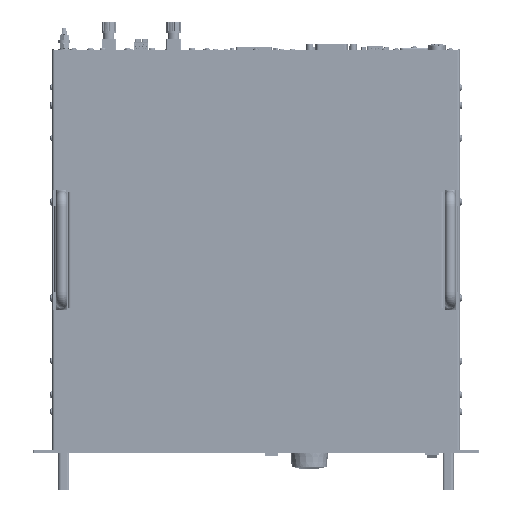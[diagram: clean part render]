
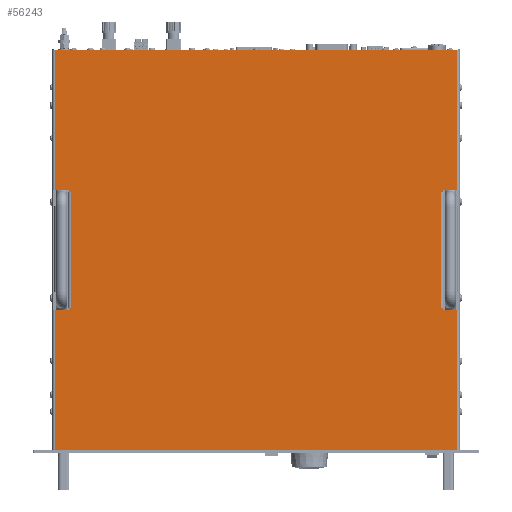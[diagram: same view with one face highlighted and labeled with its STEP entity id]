
A CAD part, top view. The second image highlights one B-rep face of the part: STEP entity #56243.
In plain terms, the highlighted planar face has unit normal (0, 0, 1).
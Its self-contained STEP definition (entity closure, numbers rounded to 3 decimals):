
#56243=ADVANCED_FACE('',(#115774),#115775,.F.);
#115774=FACE_OUTER_BOUND('',#212167,.T.);
#115775=PLANE('',#212168);
#212167=EDGE_LOOP('',(#369351,#369352,#369353,#369354,#369355,#369356,#369357,#369358,#369359,#369360,#369361,#369362,#369363,#369364,#369365,#369366,#369367,#369368,#369369,#369370));
#212168=AXIS2_PLACEMENT_3D('',#369371,#369372,#369373);
#369351=ORIENTED_EDGE('',*,*,#453408,.T.);
#369352=ORIENTED_EDGE('',*,*,#453428,.F.);
#369353=ORIENTED_EDGE('',*,*,#453429,.F.);
#369354=ORIENTED_EDGE('',*,*,#453072,.F.);
#369355=ORIENTED_EDGE('',*,*,#453394,.F.);
#369356=ORIENTED_EDGE('',*,*,#453057,.F.);
#369357=ORIENTED_EDGE('',*,*,#453383,.F.);
#369358=ORIENTED_EDGE('',*,*,#453430,.F.);
#369359=ORIENTED_EDGE('',*,*,#453426,.T.);
#369360=ORIENTED_EDGE('',*,*,#453421,.F.);
#369361=ORIENTED_EDGE('',*,*,#453418,.T.);
#369362=ORIENTED_EDGE('',*,*,#453431,.F.);
#369363=ORIENTED_EDGE('',*,*,#453359,.F.);
#369364=ORIENTED_EDGE('',*,*,#453047,.F.);
#369365=ORIENTED_EDGE('',*,*,#453348,.F.);
#369366=ORIENTED_EDGE('',*,*,#453067,.F.);
#369367=ORIENTED_EDGE('',*,*,#453432,.F.);
#369368=ORIENTED_EDGE('',*,*,#453433,.F.);
#369369=ORIENTED_EDGE('',*,*,#453405,.T.);
#369370=ORIENTED_EDGE('',*,*,#453413,.T.);
#369371=CARTESIAN_POINT('',(239.8,220.125,86.465));
#369372=DIRECTION('',(0.,0.,-1.0));
#369373=DIRECTION('',(1.0,0.,0.));
#453047=EDGE_CURVE('',#545673,#545675,#545676,.T.);
#453057=EDGE_CURVE('',#545691,#545693,#545694,.T.);
#453067=EDGE_CURVE('',#545709,#545711,#545712,.T.);
#453072=EDGE_CURVE('',#545718,#545720,#545721,.T.);
#453348=EDGE_CURVE('',#545711,#545673,#546151,.T.);
#453359=EDGE_CURVE('',#545675,#546166,#546167,.T.);
#453383=EDGE_CURVE('',#546199,#545691,#546201,.T.);
#453394=EDGE_CURVE('',#545693,#545718,#546216,.T.);
#453405=EDGE_CURVE('',#546227,#546230,#546232,.T.);
#453408=EDGE_CURVE('',#546237,#546234,#546238,.T.);
#453413=EDGE_CURVE('',#546230,#546237,#546243,.T.);
#453418=EDGE_CURVE('',#546249,#546247,#546250,.T.);
#453421=EDGE_CURVE('',#546249,#546253,#546254,.T.);
#453426=EDGE_CURVE('',#546259,#546253,#546261,.T.);
#453428=EDGE_CURVE('',#546263,#546234,#546264,.T.);
#453429=EDGE_CURVE('',#545720,#546263,#546265,.T.);
#453430=EDGE_CURVE('',#546259,#546199,#546266,.T.);
#453431=EDGE_CURVE('',#546166,#546247,#546267,.T.);
#453432=EDGE_CURVE('',#546268,#545709,#546269,.T.);
#453433=EDGE_CURVE('',#546227,#546268,#546270,.T.);
#545673=VERTEX_POINT('',#678044);
#545675=VERTEX_POINT('',#678046);
#545676=LINE('',#678047,#678048);
#545691=VERTEX_POINT('',#678066);
#545693=VERTEX_POINT('',#678068);
#545694=LINE('',#678069,#678070);
#545709=VERTEX_POINT('',#678088);
#545711=VERTEX_POINT('',#678090);
#545712=LINE('',#678091,#678092);
#545718=VERTEX_POINT('',#678099);
#545720=VERTEX_POINT('',#678101);
#545721=LINE('',#678102,#678103);
#546151=LINE('',#678654,#678655);
#546166=VERTEX_POINT('',#678675);
#546167=LINE('',#678676,#678677);
#546199=VERTEX_POINT('',#678723);
#546201=LINE('',#678726,#678727);
#546216=LINE('',#678747,#678748);
#546227=VERTEX_POINT('',#678763);
#546230=VERTEX_POINT('',#678767);
#546232=LINE('',#678769,#678770);
#546234=VERTEX_POINT('',#678772);
#546237=VERTEX_POINT('',#678776);
#546238=LINE('',#678777,#678778);
#546243=LINE('',#678783,#678784);
#546247=VERTEX_POINT('',#678789);
#546249=VERTEX_POINT('',#678792);
#546250=LINE('',#678793,#678794);
#546253=VERTEX_POINT('',#678797);
#546254=LINE('',#678798,#678799);
#546259=VERTEX_POINT('',#678804);
#546261=LINE('',#678807,#678808);
#546263=VERTEX_POINT('',#678810);
#546264=LINE('',#678811,#678812);
#546265=LINE('',#678813,#678814);
#546266=LINE('',#678815,#678816);
#546267=LINE('',#678817,#678818);
#546268=VERTEX_POINT('',#678819);
#546269=LINE('',#678820,#678821);
#546270=LINE('',#678822,#678823);
#678044=CARTESIAN_POINT('',(22.123,3.5,86.465));
#678046=CARTESIAN_POINT('',(22.123,155.5,86.465));
#678047=CARTESIAN_POINT('',(22.123,149.813,86.465));
#678048=VECTOR('',#769374,1.0);
#678066=CARTESIAN_POINT('',(22.123,284.75,86.465));
#678068=CARTESIAN_POINT('',(22.123,436.75,86.465));
#678069=CARTESIAN_POINT('',(22.123,290.438,86.465));
#678070=VECTOR('',#769390,1.0);
#678088=CARTESIAN_POINT('',(457.477,155.5,86.465));
#678090=CARTESIAN_POINT('',(457.477,3.5,86.465));
#678091=CARTESIAN_POINT('',(457.477,149.813,86.465));
#678092=VECTOR('',#769406,1.0);
#678099=CARTESIAN_POINT('',(457.477,436.75,86.465));
#678101=CARTESIAN_POINT('',(457.477,284.75,86.465));
#678102=CARTESIAN_POINT('',(457.477,290.438,86.465));
#678103=VECTOR('',#769414,1.0);
#678654=CARTESIAN_POINT('',(460.227,3.5,86.465));
#678655=VECTOR('',#769800,1.0);
#678675=CARTESIAN_POINT('',(37.373,155.5,86.465));
#678676=CARTESIAN_POINT('',(19.373,155.5,86.465));
#678677=VECTOR('',#769818,1.0);
#678723=CARTESIAN_POINT('',(37.373,284.75,86.465));
#678726=CARTESIAN_POINT('',(37.373,284.75,86.465));
#678727=VECTOR('',#769846,1.0);
#678747=CARTESIAN_POINT('',(19.373,436.75,86.465));
#678748=VECTOR('',#769864,1.0);
#678763=CARTESIAN_POINT('',(442.227,157.5,86.465));
#678767=CARTESIAN_POINT('',(440.477,157.5,86.465));
#678769=CARTESIAN_POINT('',(341.093,157.5,86.465));
#678770=VECTOR('',#769876,1.0);
#678772=CARTESIAN_POINT('',(442.227,282.75,86.465));
#678776=CARTESIAN_POINT('',(440.477,282.75,86.465));
#678777=CARTESIAN_POINT('',(341.093,282.75,86.465));
#678778=VECTOR('',#769878,1.0);
#678783=CARTESIAN_POINT('',(440.477,220.125,86.465));
#678784=VECTOR('',#769888,1.0);
#678789=CARTESIAN_POINT('',(37.373,157.5,86.465));
#678792=CARTESIAN_POINT('',(39.123,157.5,86.465));
#678793=CARTESIAN_POINT('',(138.507,157.5,86.465));
#678794=VECTOR('',#769891,1.0);
#678797=CARTESIAN_POINT('',(39.123,282.75,86.465));
#678798=CARTESIAN_POINT('',(39.123,220.125,86.465));
#678799=VECTOR('',#769895,1.0);
#678804=CARTESIAN_POINT('',(37.373,282.75,86.465));
#678807=CARTESIAN_POINT('',(138.507,282.75,86.465));
#678808=VECTOR('',#769903,1.0);
#678810=CARTESIAN_POINT('',(442.227,284.75,86.465));
#678811=CARTESIAN_POINT('',(442.227,284.75,86.465));
#678812=VECTOR('',#769904,1.0);
#678813=CARTESIAN_POINT('',(460.227,284.75,86.465));
#678814=VECTOR('',#769905,1.0);
#678815=CARTESIAN_POINT('',(37.373,282.75,86.465));
#678816=VECTOR('',#769906,1.0);
#678817=CARTESIAN_POINT('',(37.373,155.5,86.465));
#678818=VECTOR('',#769907,1.0);
#678819=CARTESIAN_POINT('',(442.227,155.5,86.465));
#678820=CARTESIAN_POINT('',(442.227,155.5,86.465));
#678821=VECTOR('',#769908,1.0);
#678822=CARTESIAN_POINT('',(442.227,157.5,86.465));
#678823=VECTOR('',#769909,1.0);
#769374=DIRECTION('',(0.0,1.0,0.));
#769390=DIRECTION('',(0.0,1.0,0.));
#769406=DIRECTION('',(0.0,-1.0,0.));
#769414=DIRECTION('',(0.0,-1.0,0.));
#769800=DIRECTION('',(-1.0,0.0,0.));
#769818=DIRECTION('',(1.0,0.0,0.0));
#769846=DIRECTION('',(-1.0,0.0,0.0));
#769864=DIRECTION('',(1.0,0.0,0.0));
#769876=DIRECTION('',(-1.0,0.0,0.0));
#769878=DIRECTION('',(1.0,0.0,0.0));
#769888=DIRECTION('',(0.0,1.0,0.));
#769891=DIRECTION('',(-1.0,0.0,0.0));
#769895=DIRECTION('',(0.0,1.0,0.));
#769903=DIRECTION('',(1.0,0.0,0.0));
#769904=DIRECTION('',(0.0,-1.0,0.));
#769905=DIRECTION('',(-1.0,0.0,0.0));
#769906=DIRECTION('',(0.0,1.0,0.));
#769907=DIRECTION('',(0.0,1.0,0.));
#769908=DIRECTION('',(1.0,0.0,0.0));
#769909=DIRECTION('',(0.0,-1.0,0.));
